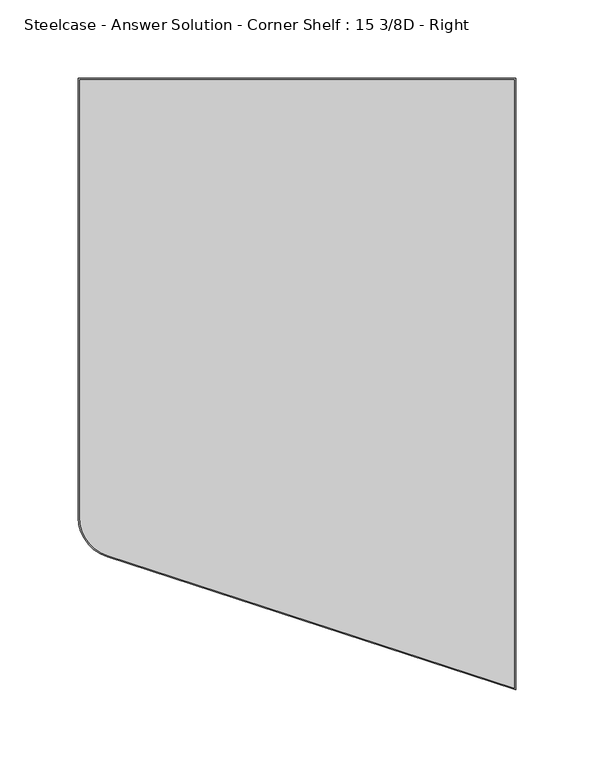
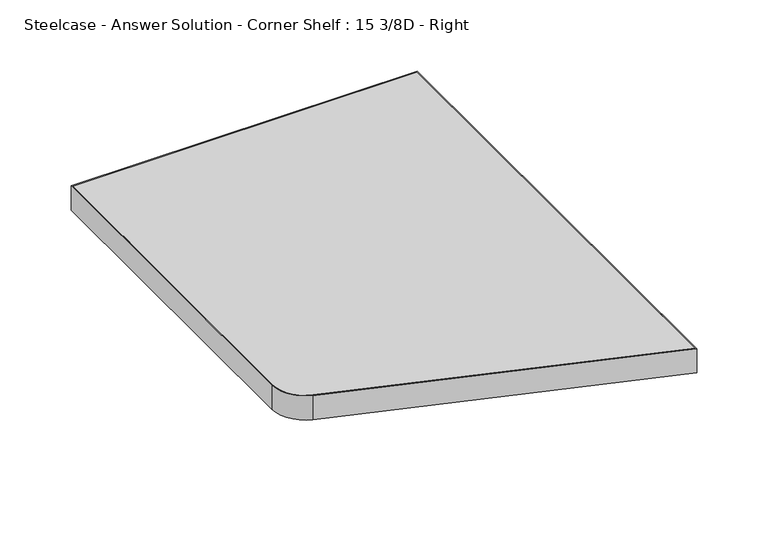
"""IFC4 building model written with IfcOpenShell, lengths in millimetres: furniture geometry, Steelcase - Answer Solution - Corner Shelf : 15 3/8D - Right."""

from ifc_helpers import new_model, si_unit, point, frame, frame_2d, origin, place, context, project, spatial, polyline, circle_curve, trimmed, segment, composite_curve, outline, extrude, source, transform, mapped, element, save


def steelcase_answer_solution_corner_shelf_15_3_8d_right_d72f7c49(model_context):
    return source(origin(), model_context, "Body", "SweptSolid", [
        extrude(outline(composite_curve([segment(polyline([(-113.538, -110.236), (164.338, -110.236), (164.338, -499.1130655), (-95.6345824, -414.4945056)]), True, "CONTINUOUS"), segment(trimmed(circle_curve(frame_2d((-87.63, -389.8540688)), 25.908), [point((-95.6345824, -414.4945056))], [point((-113.538, -389.8540688))], False, "CARTESIAN"), True, "CONTINUOUS"), segment(polyline([(-113.538, -389.8540688), (-113.538, -110.236)]), True, "CONTINUOUS")], self_intersect=False)), frame((0.0, 0.0, 723.9), z_axis=(0.0, 0.0, 1.0), x_axis=(1.0, 0.0, 0.0)), (0.0, 0.0, 1.0), 20.574),
        extrude(outline(composite_curve([segment(polyline([(-114.3436562, -109.4303437), (165.1436562, -109.4303437), (165.1436562, -500.2225581), (-95.8834994, -415.2607447)]), True, "CONTINUOUS"), segment(trimmed(circle_curve(frame_2d((-87.63, -389.8540688)), 26.7136563), [point((-95.8834994, -415.2607447))], [point((-114.3436562, -389.8540688))], False, "CARTESIAN"), True, "CONTINUOUS"), segment(polyline([(-114.3436562, -389.8540688), (-114.3436562, -109.4303437)]), True, "CONTINUOUS")], self_intersect=False), holes=[composite_curve([segment(polyline([(-95.6345824, -414.4945056), (164.338, -499.1130655), (164.338, -110.236), (-113.538, -110.236), (-113.538, -389.8540688)]), True, "CONTINUOUS"), segment(trimmed(circle_curve(frame_2d((-87.63, -389.8540688)), 25.908), [point((-113.538, -389.8540688))], [point((-95.6345824, -414.4945056))], True, "CARTESIAN"), True, "CONTINUOUS")], self_intersect=False)]), frame((0.0, 0.0, 723.9), z_axis=(0.0, 0.0, 1.0), x_axis=(1.0, 0.0, 0.0)), (0.0, 0.0, 1.0), 20.574),
    ])


if __name__ == "__main__":
    model = new_model("IFC4")
    model_context = context("Model", 3, world=origin())
    ifc_project = project(units=[si_unit("LENGTHUNIT", "METRE", prefix="MILLI")], contexts=[model_context])
    site = spatial("IfcSite", under=ifc_project)
    building = spatial("IfcBuilding", under=site)
    placement = place(None, origin())
    steelcase_answer_solution_corner_shelf_15_3_8d_right_shape = steelcase_answer_solution_corner_shelf_15_3_8d_right_d72f7c49(model_context)
    element("IfcFurniture", 1, ObjectType="Steelcase - Answer Solution - Corner Shelf : 15 3/8D - Right", at=placement, inside=building, context=model_context, shape_type="MappedRepresentation", body=[
        mapped(steelcase_answer_solution_corner_shelf_15_3_8d_right_shape, transform((0.0, 0.0, 0.0), x_axis=(1.0, 0.0, 0.0), y_axis=(0.0, 1.0, 0.0), z_axis=(0.0, 0.0, 1.0))),
    ])
    save(model, "model.ifc")
